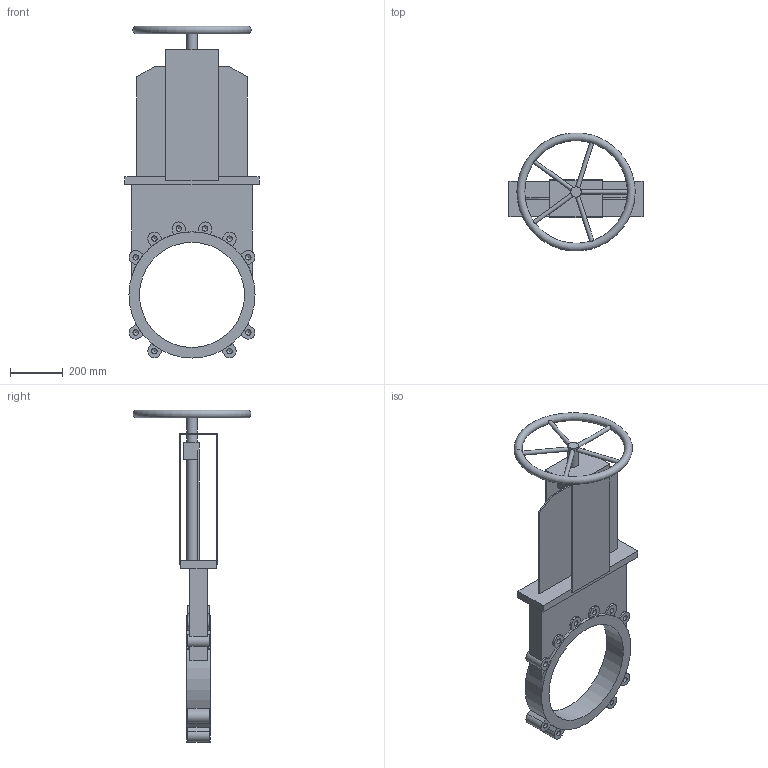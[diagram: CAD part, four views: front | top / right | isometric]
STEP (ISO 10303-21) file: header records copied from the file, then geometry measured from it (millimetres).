
FILE_DESCRIPTION(('STEP AP203'), '1');
FILE_NAME('Çàäâèæêà øèáåðíàÿ ìåæôëàíöåâàÿ K51GV DN400', '', ('UNSPECIFIED'), ('UNSPECIFIED'), 'ASCON STEP Converter 1.6', 'ASCON Math Kernel', '');
FILE_SCHEMA(('CONFIG_CONTROL_DESIGN'));
Length unit declared in the file: millimetre
Bounding box: 510 x 448.79 x 1263 mm (x, y, z)
Volume: 18511451.9 mm3; surface area: 1843567.5 mm2
Topology: 1 solids, 1 shells, 159 faces, 434 edges, 281 vertices
Faces by surface type: plane 94, cylinder 44, cone 20, torus 1
Full cylindrical faces by diameter (mm): 16 x5, 20.752 x20, 40 x3, 400 x1, 480 x1
Entity records: 6815 total; most frequent: CARTESIAN_POINT 1721, DIRECTION 790, ORIENTED_EDGE 720, EDGE_CURVE 360, AXIS2_PLACEMENT_3D 282, VERTEX_POINT 260, EDGE_LOOP 232, LINE 226
